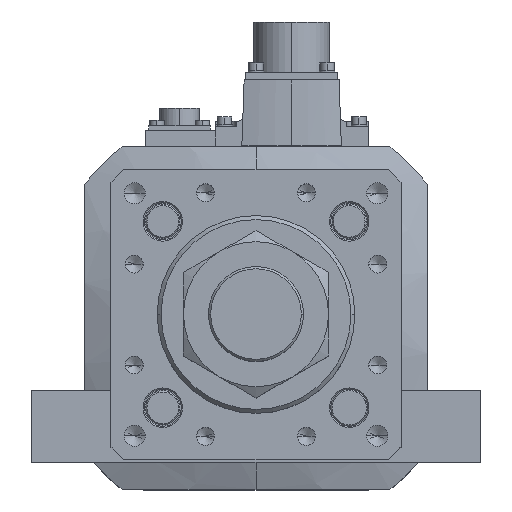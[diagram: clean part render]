
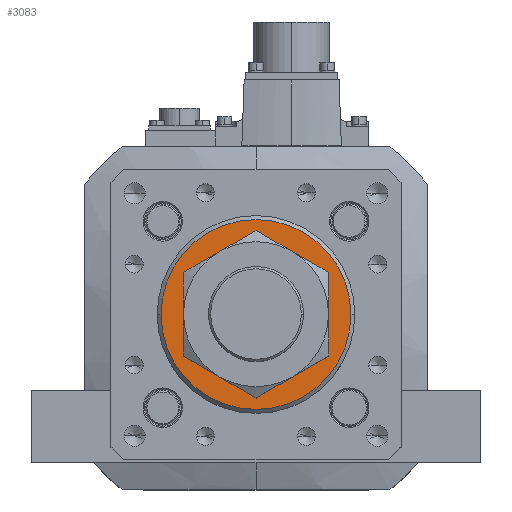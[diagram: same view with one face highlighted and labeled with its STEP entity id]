
A CAD part, top view. The second image highlights one B-rep face of the part: STEP entity #3083.
In plain terms, the highlighted planar face has unit normal (0, 0, 1).
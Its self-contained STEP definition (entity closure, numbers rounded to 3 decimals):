
#281 = CIRCLE ( 'NONE', #32350, 23. ) ;
#609 = CIRCLE ( 'NONE', #13762, 36. ) ;
#1495 = CIRCLE ( 'NONE', #12004, 36. ) ;
#3083 = ADVANCED_FACE ( 'NONE', ( #32349, #34618 ), #5057, .T. ) ;
#5057 = PLANE ( 'NONE',  #30295 ) ;
#5437 = DIRECTION ( 'NONE',  ( 0., 0., 1. ) ) ;
#5556 = VERTEX_POINT ( 'NONE', #14272 ) ;
#7811 = AXIS2_PLACEMENT_3D ( 'NONE', #32832, #20872, #39042 ) ;
#8581 = VERTEX_POINT ( 'NONE', #28269 ) ;
#10967 = EDGE_CURVE ( 'NONE', #12193, #33636, #281, .T. ) ;
#11326 = EDGE_LOOP ( 'NONE', ( #34530, #21178 ) ) ;
#12004 = AXIS2_PLACEMENT_3D ( 'NONE', #29558, #32458, #29683 ) ;
#12193 = VERTEX_POINT ( 'NONE', #39007 ) ;
#13337 = EDGE_CURVE ( 'NONE', #8581, #5556, #1495, .T. ) ;
#13762 = AXIS2_PLACEMENT_3D ( 'NONE', #33129, #30578, #27216 ) ;
#14272 = CARTESIAN_POINT ( 'NONE',  ( -36., 0., 546. ) ) ;
#17297 = CIRCLE ( 'NONE', #7811, 23. ) ;
#17582 = DIRECTION ( 'NONE',  ( 0., 0., -1. ) ) ;
#20872 = DIRECTION ( 'NONE',  ( 0., 0., -1. ) ) ;
#21178 = ORIENTED_EDGE ( 'NONE', *, *, #10967, .T. ) ;
#22783 = ORIENTED_EDGE ( 'NONE', *, *, #13337, .T. ) ;
#26888 = EDGE_CURVE ( 'NONE', #33636, #12193, #17297, .T. ) ;
#27014 = ORIENTED_EDGE ( 'NONE', *, *, #38455, .T. ) ;
#27216 = DIRECTION ( 'NONE',  ( 1., 0., 0. ) ) ;
#28269 = CARTESIAN_POINT ( 'NONE',  ( 36., 0., 546. ) ) ;
#29144 = DIRECTION ( 'NONE',  ( 1., 0., 0. ) ) ;
#29558 = CARTESIAN_POINT ( 'NONE',  ( 0., 0., 546. ) ) ;
#29683 = DIRECTION ( 'NONE',  ( 1., 0., 0. ) ) ;
#30295 = AXIS2_PLACEMENT_3D ( 'NONE', #32156, #5437, #29144 ) ;
#30578 = DIRECTION ( 'NONE',  ( 0., 0., 1. ) ) ;
#32156 = CARTESIAN_POINT ( 'NONE',  ( 0., 0., 546. ) ) ;
#32349 = FACE_BOUND ( 'NONE', #11326, .T. ) ;
#32350 = AXIS2_PLACEMENT_3D ( 'NONE', #35454, #17582, #32683 ) ;
#32458 = DIRECTION ( 'NONE',  ( 0., 0., 1. ) ) ;
#32683 = DIRECTION ( 'NONE',  ( 1., 0., 0. ) ) ;
#32832 = CARTESIAN_POINT ( 'NONE',  ( 0., 0., 546. ) ) ;
#33129 = CARTESIAN_POINT ( 'NONE',  ( 0., 0., 546. ) ) ;
#33636 = VERTEX_POINT ( 'NONE', #36018 ) ;
#34530 = ORIENTED_EDGE ( 'NONE', *, *, #26888, .T. ) ;
#34618 = FACE_OUTER_BOUND ( 'NONE', #35855, .T. ) ;
#35454 = CARTESIAN_POINT ( 'NONE',  ( 0., 0., 546. ) ) ;
#35855 = EDGE_LOOP ( 'NONE', ( #27014, #22783 ) ) ;
#36018 = CARTESIAN_POINT ( 'NONE',  ( 23., 0., 546. ) ) ;
#38455 = EDGE_CURVE ( 'NONE', #5556, #8581, #609, .T. ) ;
#39007 = CARTESIAN_POINT ( 'NONE',  ( -23., 0., 546. ) ) ;
#39042 = DIRECTION ( 'NONE',  ( 1., 0., 0. ) ) ;
